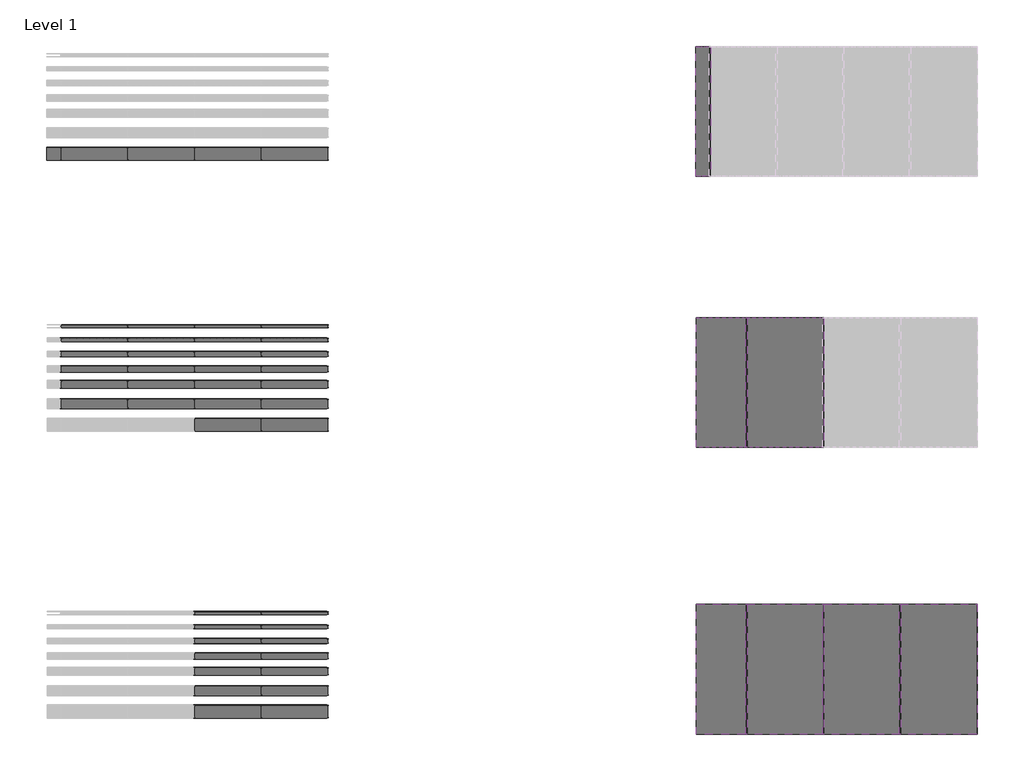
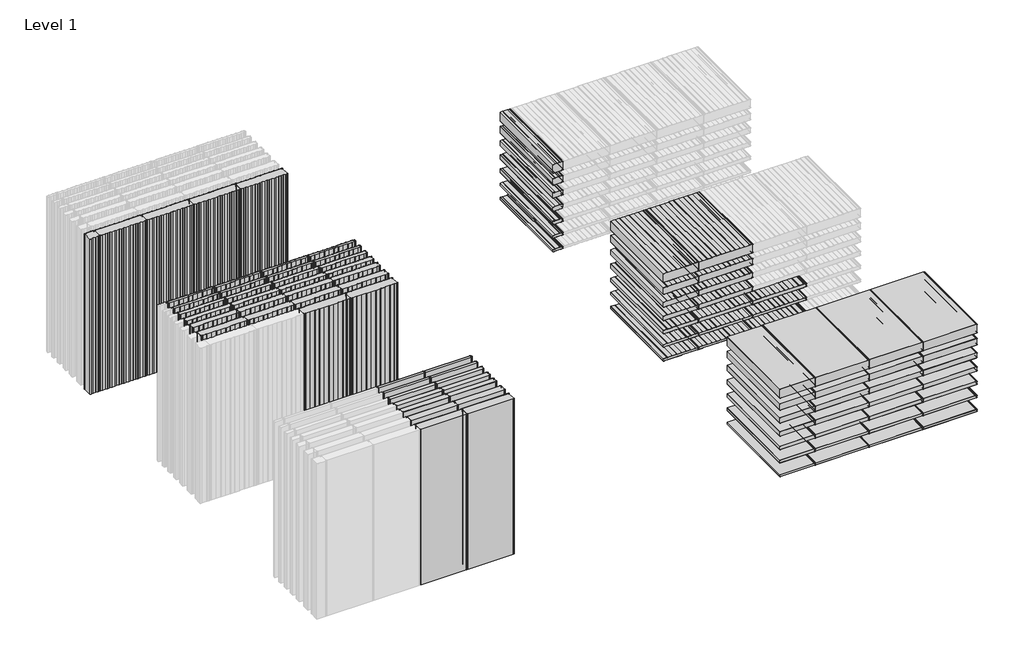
# One storey, part 3 of 4: 97 plates.
"""IFC4 building model written with IfcOpenShell, lengths in millimetres."""

from ifc_helpers import new_model, si_unit, origin, place, context, project, spatial, transform, mapped, element, save
from components import plate_c0fbc9e0, plate_24b0a13b, plate_d84f3b6b, plate_1f1996e2, plate_37213962, plate_cd397411, plate_82cb0394, plate_46b46948, plate_8fb5820e, plate_215b7ad8, plate_cca0c929, plate_ab274a87, plate_490ffd24, plate_86621088, plate_fcd02327, plate_9c3616a6, plate_b6f5b8fb, plate_d67f2b87, plate_3ec6e447, plate_b6d19df9, plate_b77677c2, plate_02edb116, plate_71c8e410, plate_208f2f02, plate_dd2a4387, plate_1fcd82a8, plate_863052c6, plate_c1a73980, plate_c8ef7cc6, plate_5d0e5f40, plate_37a7e260, plate_d39909f0, plate_9a600a1f, plate_23aabe01, plate_1fa75648, plate_c51ca6de, plate_85a3d73c, pm1_curtain_panel_perfil_liso_4c73c2bf, pm1_curtain_panel_perfil_liso_43c2f4df, pm1_curtain_panel_perfil_liso_60ec96a5, pm1_curtain_panel_perfil_liso_449bc577, pm1_curtain_panel_perfil_liso_286b1131, pm1_curtain_panel_perfil_liso_61f180d3, pm1_curtain_panel_perfil_liso_b2dca893, pm1_curtain_panel_perfil_liso_1d2014c8, pm1_curtain_panel_perfil_liso_ca693aed, pm1_curtain_panel_perfil_liso_87bdf2c1, pm1_curtain_panel_perfil_liso_b736cf1f, pm1_curtain_panel_perfil_liso_28417d67, pm1_curtain_panel_perfil_liso_6e2cb82f, pm1_curtain_panel_perfil_liso_e4c4468b, pmh_curtain_panel_perfil_liso_bc538edd, pmh_curtain_panel_perfil_liso_eaf717ca, pmh_curtain_panel_perfil_liso_2aa518ef, pmh_curtain_panel_perfil_liso_a8378464, pmh_curtain_panel_perfil_liso_d1ff0061, pmh_curtain_panel_perfil_liso_b9f61fe7, pmh_curtain_panel_perfil_liso_7e397283

model = new_model("IFC4")

# Units and contexts
model_context = context("Model", 3, world=origin())
ifc_project = project(units=[si_unit("LENGTHUNIT", "METRE", prefix="MILLI")], contexts=[model_context])

# Site, building, storey
site = spatial("IfcSite", under=ifc_project)
building = spatial("IfcBuilding", under=site)
storey = spatial("IfcBuildingStorey", under=building, Name="Level 1", Elevation=0.0)

# Plates
placement = place(None, origin())
plate_shape = plate_c0fbc9e0(model_context)
plate_2_shape = plate_24b0a13b(model_context)
element("IfcPlate", 1, ObjectType="PM1_Curtain-Panel_Perfil-Frigorífico : ACH_PM1_Panel-Acústico-Sectorización_50M", at=placement, inside=storey, context=model_context, shape_type="MappedRepresentation", body=[
    mapped(plate_shape, transform((9857.4664378, -4719.7144508, 0.0), x_axis=(-1.0, 0.0, 0.0), y_axis=(0.0, 0.0, 1.0), z_axis=(0.0, 1.0, 0.0))),
    mapped(plate_2_shape, transform((9857.4664378, -4719.7144508, 0.0), x_axis=(-1.0, 0.0, 0.0), y_axis=(0.0, 0.0, 1.0), z_axis=(0.0, 1.0, 0.0))),
])
element("IfcPlate", 2, ObjectType="PM1_Curtain-Panel_Perfil-Frigorífico : ACH_PM1_Panel-Acústico-Sectorización_50M", at=placement, inside=storey, context=model_context, shape_type="MappedRepresentation", body=[
    mapped(plate_shape, transform((8707.4664378, -4719.7144508, 0.0), x_axis=(-1.0, 0.0, 0.0), y_axis=(0.0, 0.0, 1.0), z_axis=(0.0, 1.0, 0.0))),
    mapped(plate_2_shape, transform((8707.4664378, -4719.7144508, 0.0), x_axis=(-1.0, 0.0, 0.0), y_axis=(0.0, 0.0, 1.0), z_axis=(0.0, 1.0, 0.0))),
])
plate_3_shape = plate_d84f3b6b(model_context)
element("IfcPlate", 3, ObjectType="PM1_Curtain-Panel_Perfil-Frigorífico : ACH_PM1_Panel-Acústico-Sectorización_50M", at=placement, inside=storey, context=model_context, shape_type="MappedRepresentation", body=[
    mapped(plate_3_shape, transform((7757.4544639, -4719.7144508, 0.0), x_axis=(-1.0, 0.0, 0.0), y_axis=(0.0, 0.0, 1.0), z_axis=(0.0, 1.0, 0.0))),
])
plate_4_shape = plate_1f1996e2(model_context)
plate_5_shape = plate_37213962(model_context)
element("IfcPlate", 4, ObjectType="PM1_Curtain-Panel_Perfil-Frigorífico : ACH_PM1_Panel-Acústico-Sectorización_60M", at=placement, inside=storey, context=model_context, shape_type="MappedRepresentation", body=[
    mapped(plate_4_shape, transform((9857.4664378, -4719.7144508, 320.0), x_axis=(-1.0, 0.0, 0.0), y_axis=(0.0, 0.0, 1.0), z_axis=(0.0, 1.0, 0.0))),
    mapped(plate_5_shape, transform((9857.4664378, -4719.7144508, 320.0), x_axis=(-1.0, 0.0, 0.0), y_axis=(0.0, 0.0, 1.0), z_axis=(0.0, 1.0, 0.0))),
])
element("IfcPlate", 5, ObjectType="PM1_Curtain-Panel_Perfil-Frigorífico : ACH_PM1_Panel-Acústico-Sectorización_60M", at=placement, inside=storey, context=model_context, shape_type="MappedRepresentation", body=[
    mapped(plate_4_shape, transform((8707.4664378, -4719.7144508, 320.0), x_axis=(-1.0, 0.0, 0.0), y_axis=(0.0, 0.0, 1.0), z_axis=(0.0, 1.0, 0.0))),
    mapped(plate_5_shape, transform((8707.4664378, -4719.7144508, 320.0), x_axis=(-1.0, 0.0, 0.0), y_axis=(0.0, 0.0, 1.0), z_axis=(0.0, 1.0, 0.0))),
])
plate_6_shape = plate_cd397411(model_context)
element("IfcPlate", 6, ObjectType="PM1_Curtain-Panel_Perfil-Frigorífico : ACH_PM1_Panel-Acústico-Sectorización_60M", at=placement, inside=storey, context=model_context, shape_type="MappedRepresentation", body=[
    mapped(plate_6_shape, transform((7757.4544639, -4719.7144508, 320.0), x_axis=(-1.0, 0.0, 0.0), y_axis=(0.0, 0.0, 1.0), z_axis=(0.0, 1.0, 0.0))),
])
plate_7_shape = plate_82cb0394(model_context)
plate_8_shape = plate_46b46948(model_context)
element("IfcPlate", 7, ObjectType="PM1_Curtain-Panel_Perfil-Frigorífico : ACH_PM1_Panel-Acústico-Sectorización_80M", at=placement, inside=storey, context=model_context, shape_type="MappedRepresentation", body=[
    mapped(plate_7_shape, transform((9857.4664378, -4719.7144508, 640.0), x_axis=(-1.0, 0.0, 0.0), y_axis=(0.0, 0.0, 1.0), z_axis=(0.0, 1.0, 0.0))),
    mapped(plate_8_shape, transform((9857.4664378, -4719.7144508, 640.0), x_axis=(-1.0, 0.0, 0.0), y_axis=(0.0, 0.0, 1.0), z_axis=(0.0, 1.0, 0.0))),
])
element("IfcPlate", 8, ObjectType="PM1_Curtain-Panel_Perfil-Frigorífico : ACH_PM1_Panel-Acústico-Sectorización_80M", at=placement, inside=storey, context=model_context, shape_type="MappedRepresentation", body=[
    mapped(plate_7_shape, transform((8707.4664378, -4719.7144508, 640.0), x_axis=(-1.0, 0.0, 0.0), y_axis=(0.0, 0.0, 1.0), z_axis=(0.0, 1.0, 0.0))),
    mapped(plate_8_shape, transform((8707.4664378, -4719.7144508, 640.0), x_axis=(-1.0, 0.0, 0.0), y_axis=(0.0, 0.0, 1.0), z_axis=(0.0, 1.0, 0.0))),
])
plate_9_shape = plate_8fb5820e(model_context)
element("IfcPlate", 9, ObjectType="PM1_Curtain-Panel_Perfil-Frigorífico : ACH_PM1_Panel-Acústico-Sectorización_80M", at=placement, inside=storey, context=model_context, shape_type="MappedRepresentation", body=[
    mapped(plate_9_shape, transform((7757.4544639, -4719.7144508, 640.0), x_axis=(-1.0, 0.0, 0.0), y_axis=(0.0, 0.0, 1.0), z_axis=(0.0, 1.0, 0.0))),
])
plate_10_shape = plate_215b7ad8(model_context)
plate_11_shape = plate_cca0c929(model_context)
element("IfcPlate", 10, ObjectType="PM1_Curtain-Panel_Perfil-Frigorífico : ACH_PM1_Panel-Acústico-Sectorización_100M", at=placement, inside=storey, context=model_context, shape_type="MappedRepresentation", body=[
    mapped(plate_10_shape, transform((8707.4664378, -4719.7144508, 960.0), x_axis=(-1.0, 0.0, 0.0), y_axis=(0.0, 0.0, 1.0), z_axis=(0.0, 1.0, 0.0))),
    mapped(plate_11_shape, transform((8707.4664378, -4719.7144508, 960.0), x_axis=(-1.0, 0.0, 0.0), y_axis=(0.0, 0.0, 1.0), z_axis=(0.0, 1.0, 0.0))),
])
plate_12_shape = plate_ab274a87(model_context)
element("IfcPlate", 11, ObjectType="PM1_Curtain-Panel_Perfil-Frigorífico : ACH_PM1_Panel-Acústico-Sectorización_100M", at=placement, inside=storey, context=model_context, shape_type="MappedRepresentation", body=[
    mapped(plate_12_shape, transform((7757.4544639, -4719.7144508, 960.0), x_axis=(-1.0, 0.0, 0.0), y_axis=(0.0, 0.0, 1.0), z_axis=(0.0, 1.0, 0.0))),
])
plate_13_shape = plate_490ffd24(model_context)
plate_14_shape = plate_86621088(model_context)
element("IfcPlate", 12, ObjectType="PM1_Curtain-Panel_Perfil-Frigorífico : ACH_PM1_Panel-Acústico-Sectorización_120M", at=placement, inside=storey, context=model_context, shape_type="MappedRepresentation", body=[
    mapped(plate_13_shape, transform((8707.4664378, -4719.7144508, 1280.0), x_axis=(-1.0, 0.0, 0.0), y_axis=(0.0, 0.0, 1.0), z_axis=(0.0, 1.0, 0.0))),
    mapped(plate_14_shape, transform((8707.4664378, -4719.7144508, 1280.0), x_axis=(-1.0, 0.0, 0.0), y_axis=(0.0, 0.0, 1.0), z_axis=(0.0, 1.0, 0.0))),
])
plate_15_shape = plate_fcd02327(model_context)
element("IfcPlate", 13, ObjectType="PM1_Curtain-Panel_Perfil-Frigorífico : ACH_PM1_Panel-Acústico-Sectorización_120M", at=placement, inside=storey, context=model_context, shape_type="MappedRepresentation", body=[
    mapped(plate_15_shape, transform((7757.4544639, -4719.7144508, 1280.0), x_axis=(-1.0, 0.0, 0.0), y_axis=(0.0, 0.0, 1.0), z_axis=(0.0, 1.0, 0.0))),
])
plate_16_shape = plate_9c3616a6(model_context)
plate_17_shape = plate_b6f5b8fb(model_context)
element("IfcPlate", 14, ObjectType="PM1_Curtain-Panel_Perfil-Frigorífico : ACH_PM1_Panel-Acústico-Sectorización_150M", at=placement, inside=storey, context=model_context, shape_type="MappedRepresentation", body=[
    mapped(plate_16_shape, transform((8707.4664378, -4719.7144508, 1600.0), x_axis=(-1.0, 0.0, 0.0), y_axis=(0.0, 0.0, 1.0), z_axis=(0.0, 1.0, 0.0))),
    mapped(plate_17_shape, transform((8707.4664378, -4719.7144508, 1600.0), x_axis=(-1.0, 0.0, 0.0), y_axis=(0.0, 0.0, 1.0), z_axis=(0.0, 1.0, 0.0))),
])
plate_18_shape = plate_d67f2b87(model_context)
element("IfcPlate", 15, ObjectType="PM1_Curtain-Panel_Perfil-Frigorífico : ACH_PM1_Panel-Acústico-Sectorización_150M", at=placement, inside=storey, context=model_context, shape_type="MappedRepresentation", body=[
    mapped(plate_18_shape, transform((7757.4544639, -4719.7144508, 1600.0), x_axis=(-1.0, 0.0, 0.0), y_axis=(0.0, 0.0, 1.0), z_axis=(0.0, 1.0, 0.0))),
])
plate_19_shape = plate_3ec6e447(model_context)
plate_20_shape = plate_b6d19df9(model_context)
element("IfcPlate", 16, ObjectType="PM1_Curtain-Panel_Perfil-Frigorífico : ACH_PM1_Panel-Acústico-Sectorización_200M", at=placement, inside=storey, context=model_context, shape_type="MappedRepresentation", body=[
    mapped(plate_19_shape, transform((8707.4664378, -4719.7144508, 1920.0), x_axis=(-1.0, 0.0, 0.0), y_axis=(0.0, 0.0, 1.0), z_axis=(0.0, 1.0, 0.0))),
    mapped(plate_20_shape, transform((8707.4664378, -4719.7144508, 1920.0), x_axis=(-1.0, 0.0, 0.0), y_axis=(0.0, 0.0, 1.0), z_axis=(0.0, 1.0, 0.0))),
])
plate_21_shape = plate_b77677c2(model_context)
element("IfcPlate", 17, ObjectType="PM1_Curtain-Panel_Perfil-Frigorífico : ACH_PM1_Panel-Acústico-Sectorización_200M", at=placement, inside=storey, context=model_context, shape_type="MappedRepresentation", body=[
    mapped(plate_21_shape, transform((7757.4544639, -4719.7144508, 1920.0), x_axis=(-1.0, 0.0, 0.0), y_axis=(0.0, 0.0, 1.0), z_axis=(0.0, 1.0, 0.0))),
])
plate_22_shape = plate_02edb116(model_context)
element("IfcPlate", 18, ObjectType="PMH_Curtain-Panel_Perfil-Estándar : ACH_PMH_Panel-Acústico-Sectorización_200M", at=placement, inside=storey, context=model_context, shape_type="MappedRepresentation", body=[
    mapped(plate_22_shape, transform((1353.9432954, -219.6173968, 0.0), x_axis=(-1.0, 0.0, 0.0), y_axis=(0.0, -1.0, 0.0), z_axis=(0.0, 0.0, 1.0))),
])
element("IfcPlate", 19, ObjectType="PMH_Curtain-Panel_Perfil-Estándar : ACH_PMH_Panel-Acústico-Sectorización_200M", at=placement, inside=storey, context=model_context, shape_type="MappedRepresentation", body=[
    mapped(plate_22_shape, transform((-646.0567046, -219.6173968, 0.0), x_axis=(-1.0, 0.0, 0.0), y_axis=(0.0, -1.0, 0.0), z_axis=(0.0, 0.0, 1.0))),
])
element("IfcPlate", 20, ObjectType="PMH_Curtain-Panel_Perfil-Estándar : ACH_PMH_Panel-Acústico-Sectorización_200M", at=placement, inside=storey, context=model_context, shape_type="MappedRepresentation", body=[
    mapped(plate_22_shape, transform((-1646.0567046, -219.6173968, 0.0), x_axis=(-1.0, 0.0, 0.0), y_axis=(0.0, -1.0, 0.0), z_axis=(0.0, 0.0, 1.0))),
])
element("IfcPlate", 21, ObjectType="PMH_Curtain-Panel_Perfil-Estándar : ACH_PMH_Panel-Acústico-Sectorización_200M", at=placement, inside=storey, context=model_context, shape_type="MappedRepresentation", body=[
    mapped(plate_22_shape, transform((353.9432954, -219.6173968, 0.0), x_axis=(-1.0, 0.0, 0.0), y_axis=(0.0, -1.0, 0.0), z_axis=(0.0, 0.0, 1.0))),
])
plate_23_shape = plate_71c8e410(model_context)
element("IfcPlate", 22, ObjectType="PMH_Curtain-Panel_Perfil-Estándar : ACH_PMH_Panel-Acústico-Sectorización_200M", at=placement, inside=storey, context=model_context, shape_type="MappedRepresentation", body=[
    mapped(plate_23_shape, transform((-2246.0567046, -219.6173968, 0.0), x_axis=(-1.0, 0.0, 0.0), y_axis=(0.0, -1.0, 0.0), z_axis=(0.0, 0.0, 1.0))),
])
plate_24_shape = plate_208f2f02(model_context)
element("IfcPlate", 23, ObjectType="PMH_Curtain-Panel_Perfil-Estándar : ACH_PMH_Panel-Acústico-Sectorización_200M", at=placement, inside=storey, context=model_context, shape_type="MappedRepresentation", body=[
    mapped(plate_24_shape, transform((7482.4544639, -659.2186597, 1920.0), x_axis=(-1.0, 0.0, 0.0), y_axis=(0.0, 0.0, 1.0), z_axis=(0.0, 1.0, 0.0))),
])
plate_25_shape = plate_dd2a4387(model_context)
element("IfcPlate", 24, ObjectType="PMH_Curtain-Panel_Perfil-Estándar : ACH_PMH_Panel-Acústico-Sectorización_150M", at=placement, inside=storey, context=model_context, shape_type="MappedRepresentation", body=[
    mapped(plate_25_shape, transform((7482.4544639, -659.2186597, 1600.0), x_axis=(-1.0, 0.0, 0.0), y_axis=(0.0, 0.0, 1.0), z_axis=(0.0, 1.0, 0.0))),
])
plate_26_shape = plate_1fcd82a8(model_context)
element("IfcPlate", 25, ObjectType="PMH_Curtain-Panel_Perfil-Estándar : ACH_PMH_Panel-Acústico-Sectorización_120M", at=placement, inside=storey, context=model_context, shape_type="MappedRepresentation", body=[
    mapped(plate_26_shape, transform((7482.4544639, -659.2186597, 1280.0), x_axis=(-1.0, 0.0, 0.0), y_axis=(0.0, 0.0, 1.0), z_axis=(0.0, 1.0, 0.0))),
])
plate_27_shape = plate_863052c6(model_context)
element("IfcPlate", 26, ObjectType="PMH_Curtain-Panel_Perfil-Estándar : ACH_PMH_Panel-Acústico-Sectorización_100M", at=placement, inside=storey, context=model_context, shape_type="MappedRepresentation", body=[
    mapped(plate_27_shape, transform((7482.4544639, -659.2186597, 960.0), x_axis=(-1.0, 0.0, 0.0), y_axis=(0.0, 0.0, 1.0), z_axis=(0.0, 1.0, 0.0))),
])
plate_28_shape = plate_c1a73980(model_context)
element("IfcPlate", 27, ObjectType="PMH_Curtain-Panel_Perfil-Estándar : ACH_PMH_Panel-Acústico-Sectorización_80M", at=placement, inside=storey, context=model_context, shape_type="MappedRepresentation", body=[
    mapped(plate_28_shape, transform((7482.4544639, -659.2186597, 640.0), x_axis=(-1.0, 0.0, 0.0), y_axis=(0.0, 0.0, 1.0), z_axis=(0.0, 1.0, 0.0))),
])
plate_29_shape = plate_c8ef7cc6(model_context)
element("IfcPlate", 28, ObjectType="PMH_Curtain-Panel_Perfil-Estándar : ACH_PMH_Panel-Acústico-Sectorización_60M", at=placement, inside=storey, context=model_context, shape_type="MappedRepresentation", body=[
    mapped(plate_29_shape, transform((7482.4544639, -659.2186597, 320.0), x_axis=(-1.0, 0.0, 0.0), y_axis=(0.0, 0.0, 1.0), z_axis=(0.0, 1.0, 0.0))),
])
plate_30_shape = plate_5d0e5f40(model_context)
element("IfcPlate", 29, ObjectType="PMH_Curtain-Panel_Perfil-Estándar : ACH_PMH_Panel-Acústico-Sectorización_50M", at=placement, inside=storey, context=model_context, shape_type="MappedRepresentation", body=[
    mapped(plate_30_shape, transform((7482.4544639, -659.2186597, 0.0), x_axis=(-1.0, 0.0, 0.0), y_axis=(0.0, 0.0, 1.0), z_axis=(0.0, 1.0, 0.0))),
])
plate_31_shape = plate_37a7e260(model_context)
element("IfcPlate", 30, ObjectType="PMH_Curtain-Panel_Perfil-Frigorífico : ACH_PMH_Panel-Acústico-Sectorización_60M", at=placement, inside=storey, context=model_context, shape_type="MappedRepresentation", body=[
    mapped(plate_31_shape, transform((1353.9432954, -3079.3131879, 0.0), x_axis=(-1.0, 0.0, 0.0), y_axis=(0.0, -1.0, 0.0), z_axis=(0.0, 0.0, 1.0))),
])
element("IfcPlate", 31, ObjectType="PMH_Curtain-Panel_Perfil-Frigorífico : ACH_PMH_Panel-Acústico-Sectorización_60M", at=placement, inside=storey, context=model_context, shape_type="MappedRepresentation", body=[
    mapped(plate_31_shape, transform((-646.0567046, -3079.3131879, 0.0), x_axis=(-1.0, 0.0, 0.0), y_axis=(0.0, -1.0, 0.0), z_axis=(0.0, 0.0, 1.0))),
])
element("IfcPlate", 32, ObjectType="PMH_Curtain-Panel_Perfil-Frigorífico : ACH_PMH_Panel-Acústico-Sectorización_60M", at=placement, inside=storey, context=model_context, shape_type="MappedRepresentation", body=[
    mapped(plate_31_shape, transform((-1646.0567046, -3079.3131879, 0.0), x_axis=(-1.0, 0.0, 0.0), y_axis=(0.0, -1.0, 0.0), z_axis=(0.0, 0.0, 1.0))),
])
element("IfcPlate", 33, ObjectType="PMH_Curtain-Panel_Perfil-Frigorífico : ACH_PMH_Panel-Acústico-Sectorización_60M", at=placement, inside=storey, context=model_context, shape_type="MappedRepresentation", body=[
    mapped(plate_31_shape, transform((353.9432954, -3079.3131879, 0.0), x_axis=(-1.0, 0.0, 0.0), y_axis=(0.0, -1.0, 0.0), z_axis=(0.0, 0.0, 1.0))),
])
plate_32_shape = plate_d39909f0(model_context)
element("IfcPlate", 34, ObjectType="PMH_Curtain-Panel_Perfil-Frigorífico : ACH_PMH_Panel-Acústico-Sectorización_80M", at=placement, inside=storey, context=model_context, shape_type="MappedRepresentation", body=[
    mapped(plate_32_shape, transform((1353.9432954, -3279.3131879, 0.0), x_axis=(-1.0, 0.0, 0.0), y_axis=(0.0, -1.0, 0.0), z_axis=(0.0, 0.0, 1.0))),
])
element("IfcPlate", 35, ObjectType="PMH_Curtain-Panel_Perfil-Frigorífico : ACH_PMH_Panel-Acústico-Sectorización_80M", at=placement, inside=storey, context=model_context, shape_type="MappedRepresentation", body=[
    mapped(plate_32_shape, transform((-646.0567046, -3279.3131879, 0.0), x_axis=(-1.0, 0.0, 0.0), y_axis=(0.0, -1.0, 0.0), z_axis=(0.0, 0.0, 1.0))),
])
element("IfcPlate", 36, ObjectType="PMH_Curtain-Panel_Perfil-Frigorífico : ACH_PMH_Panel-Acústico-Sectorización_80M", at=placement, inside=storey, context=model_context, shape_type="MappedRepresentation", body=[
    mapped(plate_32_shape, transform((-1646.0567046, -3279.3131879, 0.0), x_axis=(-1.0, 0.0, 0.0), y_axis=(0.0, -1.0, 0.0), z_axis=(0.0, 0.0, 1.0))),
])
element("IfcPlate", 37, ObjectType="PMH_Curtain-Panel_Perfil-Frigorífico : ACH_PMH_Panel-Acústico-Sectorización_80M", at=placement, inside=storey, context=model_context, shape_type="MappedRepresentation", body=[
    mapped(plate_32_shape, transform((353.9432954, -3279.3131879, 0.0), x_axis=(-1.0, 0.0, 0.0), y_axis=(0.0, -1.0, 0.0), z_axis=(0.0, 0.0, 1.0))),
])
plate_33_shape = plate_9a600a1f(model_context)
element("IfcPlate", 38, ObjectType="PMH_Curtain-Panel_Perfil-Frigorífico : ACH_PMH_Panel-Acústico-Sectorización_50M", at=placement, inside=storey, context=model_context, shape_type="MappedRepresentation", body=[
    mapped(plate_33_shape, transform((1353.9432954, -2879.3131879, 0.0), x_axis=(-1.0, 0.0, 0.0), y_axis=(0.0, -1.0, 0.0), z_axis=(0.0, 0.0, 1.0))),
])
element("IfcPlate", 39, ObjectType="PMH_Curtain-Panel_Perfil-Frigorífico : ACH_PMH_Panel-Acústico-Sectorización_50M", at=placement, inside=storey, context=model_context, shape_type="MappedRepresentation", body=[
    mapped(plate_33_shape, transform((-646.0567046, -2879.3131879, 0.0), x_axis=(-1.0, 0.0, 0.0), y_axis=(0.0, -1.0, 0.0), z_axis=(0.0, 0.0, 1.0))),
])
element("IfcPlate", 40, ObjectType="PMH_Curtain-Panel_Perfil-Frigorífico : ACH_PMH_Panel-Acústico-Sectorización_50M", at=placement, inside=storey, context=model_context, shape_type="MappedRepresentation", body=[
    mapped(plate_33_shape, transform((-1646.0567046, -2879.3131879, 0.0), x_axis=(-1.0, 0.0, 0.0), y_axis=(0.0, -1.0, 0.0), z_axis=(0.0, 0.0, 1.0))),
])
element("IfcPlate", 41, ObjectType="PMH_Curtain-Panel_Perfil-Frigorífico : ACH_PMH_Panel-Acústico-Sectorización_50M", at=placement, inside=storey, context=model_context, shape_type="MappedRepresentation", body=[
    mapped(plate_33_shape, transform((353.9432954, -2879.3131879, 0.0), x_axis=(-1.0, 0.0, 0.0), y_axis=(0.0, -1.0, 0.0), z_axis=(0.0, 0.0, 1.0))),
])
plate_34_shape = plate_23aabe01(model_context)
element("IfcPlate", 42, ObjectType="PMH_Curtain-Panel_Perfil-Frigorífico : ACH_PMH_Panel-Acústico-Sectorización_100M", at=placement, inside=storey, context=model_context, shape_type="MappedRepresentation", body=[
    mapped(plate_34_shape, transform((1353.9432954, -3495.1131879, 0.0), x_axis=(-1.0, 0.0, 0.0), y_axis=(0.0, -1.0, 0.0), z_axis=(0.0, 0.0, 1.0))),
])
element("IfcPlate", 43, ObjectType="PMH_Curtain-Panel_Perfil-Frigorífico : ACH_PMH_Panel-Acústico-Sectorización_100M", at=placement, inside=storey, context=model_context, shape_type="MappedRepresentation", body=[
    mapped(plate_34_shape, transform((-646.0567046, -3495.1131879, 0.0), x_axis=(-1.0, 0.0, 0.0), y_axis=(0.0, -1.0, 0.0), z_axis=(0.0, 0.0, 1.0))),
])
element("IfcPlate", 44, ObjectType="PMH_Curtain-Panel_Perfil-Frigorífico : ACH_PMH_Panel-Acústico-Sectorización_100M", at=placement, inside=storey, context=model_context, shape_type="MappedRepresentation", body=[
    mapped(plate_34_shape, transform((-1646.0567046, -3495.1131879, 0.0), x_axis=(-1.0, 0.0, 0.0), y_axis=(0.0, -1.0, 0.0), z_axis=(0.0, 0.0, 1.0))),
])
element("IfcPlate", 45, ObjectType="PMH_Curtain-Panel_Perfil-Frigorífico : ACH_PMH_Panel-Acústico-Sectorización_100M", at=placement, inside=storey, context=model_context, shape_type="MappedRepresentation", body=[
    mapped(plate_34_shape, transform((353.9432954, -3495.1131879, 0.0), x_axis=(-1.0, 0.0, 0.0), y_axis=(0.0, -1.0, 0.0), z_axis=(0.0, 0.0, 1.0))),
])
plate_35_shape = plate_1fa75648(model_context)
element("IfcPlate", 46, ObjectType="PMH_Curtain-Panel_Perfil-Frigorífico : ACH_PMH_Panel-Acústico-Sectorización_120M", at=placement, inside=storey, context=model_context, shape_type="MappedRepresentation", body=[
    mapped(plate_35_shape, transform((1353.9432954, -3715.1131879, 0.0), x_axis=(-1.0, 0.0, 0.0), y_axis=(0.0, -1.0, 0.0), z_axis=(0.0, 0.0, 1.0))),
])
element("IfcPlate", 47, ObjectType="PMH_Curtain-Panel_Perfil-Frigorífico : ACH_PMH_Panel-Acústico-Sectorización_120M", at=placement, inside=storey, context=model_context, shape_type="MappedRepresentation", body=[
    mapped(plate_35_shape, transform((-646.0567046, -3715.1131879, 0.0), x_axis=(-1.0, 0.0, 0.0), y_axis=(0.0, -1.0, 0.0), z_axis=(0.0, 0.0, 1.0))),
])
element("IfcPlate", 48, ObjectType="PMH_Curtain-Panel_Perfil-Frigorífico : ACH_PMH_Panel-Acústico-Sectorización_120M", at=placement, inside=storey, context=model_context, shape_type="MappedRepresentation", body=[
    mapped(plate_35_shape, transform((-1646.0567046, -3715.1131879, 0.0), x_axis=(-1.0, 0.0, 0.0), y_axis=(0.0, -1.0, 0.0), z_axis=(0.0, 0.0, 1.0))),
])
element("IfcPlate", 49, ObjectType="PMH_Curtain-Panel_Perfil-Frigorífico : ACH_PMH_Panel-Acústico-Sectorización_120M", at=placement, inside=storey, context=model_context, shape_type="MappedRepresentation", body=[
    mapped(plate_35_shape, transform((353.9432954, -3715.1131879, 0.0), x_axis=(-1.0, 0.0, 0.0), y_axis=(0.0, -1.0, 0.0), z_axis=(0.0, 0.0, 1.0))),
])
plate_36_shape = plate_c51ca6de(model_context)
element("IfcPlate", 50, ObjectType="PMH_Curtain-Panel_Perfil-Frigorífico : ACH_PMH_Panel-Acústico-Sectorización_150M", at=placement, inside=storey, context=model_context, shape_type="MappedRepresentation", body=[
    mapped(plate_36_shape, transform((1353.9432954, -3990.1131879, 0.0), x_axis=(-1.0, 0.0, 0.0), y_axis=(0.0, -1.0, 0.0), z_axis=(0.0, 0.0, 1.0))),
])
element("IfcPlate", 51, ObjectType="PMH_Curtain-Panel_Perfil-Frigorífico : ACH_PMH_Panel-Acústico-Sectorización_150M", at=placement, inside=storey, context=model_context, shape_type="MappedRepresentation", body=[
    mapped(plate_36_shape, transform((-646.0567046, -3990.1131879, 0.0), x_axis=(-1.0, 0.0, 0.0), y_axis=(0.0, -1.0, 0.0), z_axis=(0.0, 0.0, 1.0))),
])
element("IfcPlate", 52, ObjectType="PMH_Curtain-Panel_Perfil-Frigorífico : ACH_PMH_Panel-Acústico-Sectorización_150M", at=placement, inside=storey, context=model_context, shape_type="MappedRepresentation", body=[
    mapped(plate_36_shape, transform((-1646.0567046, -3990.1131879, 0.0), x_axis=(-1.0, 0.0, 0.0), y_axis=(0.0, -1.0, 0.0), z_axis=(0.0, 0.0, 1.0))),
])
element("IfcPlate", 53, ObjectType="PMH_Curtain-Panel_Perfil-Frigorífico : ACH_PMH_Panel-Acústico-Sectorización_150M", at=placement, inside=storey, context=model_context, shape_type="MappedRepresentation", body=[
    mapped(plate_36_shape, transform((353.9432954, -3990.1131879, 0.0), x_axis=(-1.0, 0.0, 0.0), y_axis=(0.0, -1.0, 0.0), z_axis=(0.0, 0.0, 1.0))),
])
plate_37_shape = plate_85a3d73c(model_context)
element("IfcPlate", 54, ObjectType="PMH_Curtain-Panel_Perfil-Frigorífico : ACH_PMH_Panel-Acústico-Sectorización_200M", at=placement, inside=storey, context=model_context, shape_type="MappedRepresentation", body=[
    mapped(plate_37_shape, transform((1353.9432954, -4280.1131879, 0.0), x_axis=(-1.0, 0.0, 0.0), y_axis=(0.0, -1.0, 0.0), z_axis=(0.0, 0.0, 1.0))),
])
element("IfcPlate", 55, ObjectType="PMH_Curtain-Panel_Perfil-Frigorífico : ACH_PMH_Panel-Acústico-Sectorización_200M", at=placement, inside=storey, context=model_context, shape_type="MappedRepresentation", body=[
    mapped(plate_37_shape, transform((353.9432954, -4280.1131879, 0.0), x_axis=(-1.0, 0.0, 0.0), y_axis=(0.0, -1.0, 0.0), z_axis=(0.0, 0.0, 1.0))),
])
pm1_curtain_panel_perfil_liso_shape = pm1_curtain_panel_perfil_liso_4c73c2bf(model_context)
element("IfcPlate", 56, ObjectType="PM1_Curtain-Panel_Perfil-Liso : ACH_PM1_Panel-Acústico-Sectorización_50M", at=placement, inside=storey, context=model_context, shape_type="MappedRepresentation", body=[
    mapped(pm1_curtain_panel_perfil_liso_shape, transform((11007.4664378, -9019.7144508, 0.0), x_axis=(-1.0, 0.0, 0.0), y_axis=(0.0, 0.0, 1.0), z_axis=(0.0, 1.0, 0.0))),
])
element("IfcPlate", 57, ObjectType="PM1_Curtain-Panel_Perfil-Liso : ACH_PM1_Panel-Acústico-Sectorización_50M", at=placement, inside=storey, context=model_context, shape_type="MappedRepresentation", body=[
    mapped(pm1_curtain_panel_perfil_liso_shape, transform((9857.4664378, -9019.7144508, 0.0), x_axis=(-1.0, 0.0, 0.0), y_axis=(0.0, 0.0, 1.0), z_axis=(0.0, 1.0, 0.0))),
])
element("IfcPlate", 58, ObjectType="PM1_Curtain-Panel_Perfil-Liso : ACH_PM1_Panel-Acústico-Sectorización_50M", at=placement, inside=storey, context=model_context, shape_type="MappedRepresentation", body=[
    mapped(pm1_curtain_panel_perfil_liso_shape, transform((8707.4664378, -9019.7144508, 0.0), x_axis=(-1.0, 0.0, 0.0), y_axis=(0.0, 0.0, 1.0), z_axis=(0.0, 1.0, 0.0))),
])
pm1_curtain_panel_perfil_liso_2_shape = pm1_curtain_panel_perfil_liso_43c2f4df(model_context)
element("IfcPlate", 59, ObjectType="PM1_Curtain-Panel_Perfil-Liso : ACH_PM1_Panel-Acústico-Sectorización_50M", at=placement, inside=storey, context=model_context, shape_type="MappedRepresentation", body=[
    mapped(pm1_curtain_panel_perfil_liso_2_shape, transform((7757.4544639, -9019.7144508, 0.0), x_axis=(-1.0, 0.0, 0.0), y_axis=(0.0, 0.0, 1.0), z_axis=(0.0, 1.0, 0.0))),
])
pm1_curtain_panel_perfil_liso_3_shape = pm1_curtain_panel_perfil_liso_60ec96a5(model_context)
element("IfcPlate", 60, ObjectType="PM1_Curtain-Panel_Perfil-Liso : ACH_PM1_Panel-Acústico-Sectorización_60M", at=placement, inside=storey, context=model_context, shape_type="MappedRepresentation", body=[
    mapped(pm1_curtain_panel_perfil_liso_3_shape, transform((11007.4664378, -9019.7144508, 320.0), x_axis=(-1.0, 0.0, 0.0), y_axis=(0.0, 0.0, 1.0), z_axis=(0.0, 1.0, 0.0))),
])
element("IfcPlate", 61, ObjectType="PM1_Curtain-Panel_Perfil-Liso : ACH_PM1_Panel-Acústico-Sectorización_60M", at=placement, inside=storey, context=model_context, shape_type="MappedRepresentation", body=[
    mapped(pm1_curtain_panel_perfil_liso_3_shape, transform((9857.4664378, -9019.7144508, 320.0), x_axis=(-1.0, 0.0, 0.0), y_axis=(0.0, 0.0, 1.0), z_axis=(0.0, 1.0, 0.0))),
])
element("IfcPlate", 62, ObjectType="PM1_Curtain-Panel_Perfil-Liso : ACH_PM1_Panel-Acústico-Sectorización_60M", at=placement, inside=storey, context=model_context, shape_type="MappedRepresentation", body=[
    mapped(pm1_curtain_panel_perfil_liso_3_shape, transform((8707.4664378, -9019.7144508, 320.0), x_axis=(-1.0, 0.0, 0.0), y_axis=(0.0, 0.0, 1.0), z_axis=(0.0, 1.0, 0.0))),
])
pm1_curtain_panel_perfil_liso_4_shape = pm1_curtain_panel_perfil_liso_449bc577(model_context)
element("IfcPlate", 63, ObjectType="PM1_Curtain-Panel_Perfil-Liso : ACH_PM1_Panel-Acústico-Sectorización_60M", at=placement, inside=storey, context=model_context, shape_type="MappedRepresentation", body=[
    mapped(pm1_curtain_panel_perfil_liso_4_shape, transform((7757.4544639, -9019.7144508, 320.0), x_axis=(-1.0, 0.0, 0.0), y_axis=(0.0, 0.0, 1.0), z_axis=(0.0, 1.0, 0.0))),
])
pm1_curtain_panel_perfil_liso_5_shape = pm1_curtain_panel_perfil_liso_286b1131(model_context)
element("IfcPlate", 64, ObjectType="PM1_Curtain-Panel_Perfil-Liso : ACH_PM1_Panel-Acústico-Sectorización_80M", at=placement, inside=storey, context=model_context, shape_type="MappedRepresentation", body=[
    mapped(pm1_curtain_panel_perfil_liso_5_shape, transform((11007.4664378, -9019.7144508, 640.0), x_axis=(-1.0, 0.0, 0.0), y_axis=(0.0, 0.0, 1.0), z_axis=(0.0, 1.0, 0.0))),
])
element("IfcPlate", 65, ObjectType="PM1_Curtain-Panel_Perfil-Liso : ACH_PM1_Panel-Acústico-Sectorización_80M", at=placement, inside=storey, context=model_context, shape_type="MappedRepresentation", body=[
    mapped(pm1_curtain_panel_perfil_liso_5_shape, transform((9857.4664378, -9019.7144508, 640.0), x_axis=(-1.0, 0.0, 0.0), y_axis=(0.0, 0.0, 1.0), z_axis=(0.0, 1.0, 0.0))),
])
element("IfcPlate", 66, ObjectType="PM1_Curtain-Panel_Perfil-Liso : ACH_PM1_Panel-Acústico-Sectorización_80M", at=placement, inside=storey, context=model_context, shape_type="MappedRepresentation", body=[
    mapped(pm1_curtain_panel_perfil_liso_5_shape, transform((8707.4664378, -9019.7144508, 640.0), x_axis=(-1.0, 0.0, 0.0), y_axis=(0.0, 0.0, 1.0), z_axis=(0.0, 1.0, 0.0))),
])
pm1_curtain_panel_perfil_liso_6_shape = pm1_curtain_panel_perfil_liso_61f180d3(model_context)
element("IfcPlate", 67, ObjectType="PM1_Curtain-Panel_Perfil-Liso : ACH_PM1_Panel-Acústico-Sectorización_80M", at=placement, inside=storey, context=model_context, shape_type="MappedRepresentation", body=[
    mapped(pm1_curtain_panel_perfil_liso_6_shape, transform((7757.4544639, -9019.7144508, 640.0), x_axis=(-1.0, 0.0, 0.0), y_axis=(0.0, 0.0, 1.0), z_axis=(0.0, 1.0, 0.0))),
])
pm1_curtain_panel_perfil_liso_7_shape = pm1_curtain_panel_perfil_liso_b2dca893(model_context)
element("IfcPlate", 68, ObjectType="PM1_Curtain-Panel_Perfil-Liso : ACH_PM1_Panel-Acústico-Sectorización_100M", at=placement, inside=storey, context=model_context, shape_type="MappedRepresentation", body=[
    mapped(pm1_curtain_panel_perfil_liso_7_shape, transform((11007.4664378, -9019.7144508, 960.0), x_axis=(-1.0, 0.0, 0.0), y_axis=(0.0, 0.0, 1.0), z_axis=(0.0, 1.0, 0.0))),
])
element("IfcPlate", 69, ObjectType="PM1_Curtain-Panel_Perfil-Liso : ACH_PM1_Panel-Acústico-Sectorización_100M", at=placement, inside=storey, context=model_context, shape_type="MappedRepresentation", body=[
    mapped(pm1_curtain_panel_perfil_liso_7_shape, transform((9857.4664378, -9019.7144508, 960.0), x_axis=(-1.0, 0.0, 0.0), y_axis=(0.0, 0.0, 1.0), z_axis=(0.0, 1.0, 0.0))),
])
element("IfcPlate", 70, ObjectType="PM1_Curtain-Panel_Perfil-Liso : ACH_PM1_Panel-Acústico-Sectorización_100M", at=placement, inside=storey, context=model_context, shape_type="MappedRepresentation", body=[
    mapped(pm1_curtain_panel_perfil_liso_7_shape, transform((8707.4664378, -9019.7144508, 960.0), x_axis=(-1.0, 0.0, 0.0), y_axis=(0.0, 0.0, 1.0), z_axis=(0.0, 1.0, 0.0))),
])
pm1_curtain_panel_perfil_liso_8_shape = pm1_curtain_panel_perfil_liso_1d2014c8(model_context)
element("IfcPlate", 71, ObjectType="PM1_Curtain-Panel_Perfil-Liso : ACH_PM1_Panel-Acústico-Sectorización_100M", at=placement, inside=storey, context=model_context, shape_type="MappedRepresentation", body=[
    mapped(pm1_curtain_panel_perfil_liso_8_shape, transform((7757.4544639, -9019.7144508, 960.0), x_axis=(-1.0, 0.0, 0.0), y_axis=(0.0, 0.0, 1.0), z_axis=(0.0, 1.0, 0.0))),
])
pm1_curtain_panel_perfil_liso_9_shape = pm1_curtain_panel_perfil_liso_ca693aed(model_context)
element("IfcPlate", 72, ObjectType="PM1_Curtain-Panel_Perfil-Liso : ACH_PM1_Panel-Acústico-Sectorización_120M", at=placement, inside=storey, context=model_context, shape_type="MappedRepresentation", body=[
    mapped(pm1_curtain_panel_perfil_liso_9_shape, transform((11007.4664378, -9019.7144508, 1280.0), x_axis=(-1.0, 0.0, 0.0), y_axis=(0.0, 0.0, 1.0), z_axis=(0.0, 1.0, 0.0))),
])
element("IfcPlate", 73, ObjectType="PM1_Curtain-Panel_Perfil-Liso : ACH_PM1_Panel-Acústico-Sectorización_120M", at=placement, inside=storey, context=model_context, shape_type="MappedRepresentation", body=[
    mapped(pm1_curtain_panel_perfil_liso_9_shape, transform((9857.4664378, -9019.7144508, 1280.0), x_axis=(-1.0, 0.0, 0.0), y_axis=(0.0, 0.0, 1.0), z_axis=(0.0, 1.0, 0.0))),
])
element("IfcPlate", 74, ObjectType="PM1_Curtain-Panel_Perfil-Liso : ACH_PM1_Panel-Acústico-Sectorización_120M", at=placement, inside=storey, context=model_context, shape_type="MappedRepresentation", body=[
    mapped(pm1_curtain_panel_perfil_liso_9_shape, transform((8707.4664378, -9019.7144508, 1280.0), x_axis=(-1.0, 0.0, 0.0), y_axis=(0.0, 0.0, 1.0), z_axis=(0.0, 1.0, 0.0))),
])
pm1_curtain_panel_perfil_liso_10_shape = pm1_curtain_panel_perfil_liso_87bdf2c1(model_context)
element("IfcPlate", 75, ObjectType="PM1_Curtain-Panel_Perfil-Liso : ACH_PM1_Panel-Acústico-Sectorización_120M", at=placement, inside=storey, context=model_context, shape_type="MappedRepresentation", body=[
    mapped(pm1_curtain_panel_perfil_liso_10_shape, transform((7757.4544639, -9019.7144508, 1280.0), x_axis=(-1.0, 0.0, 0.0), y_axis=(0.0, 0.0, 1.0), z_axis=(0.0, 1.0, 0.0))),
])
pm1_curtain_panel_perfil_liso_11_shape = pm1_curtain_panel_perfil_liso_b736cf1f(model_context)
element("IfcPlate", 76, ObjectType="PM1_Curtain-Panel_Perfil-Liso : ACH_PM1_Panel-Acústico-Sectorización_150M", at=placement, inside=storey, context=model_context, shape_type="MappedRepresentation", body=[
    mapped(pm1_curtain_panel_perfil_liso_11_shape, transform((11007.4664378, -9019.7144508, 1600.0), x_axis=(-1.0, 0.0, 0.0), y_axis=(0.0, 0.0, 1.0), z_axis=(0.0, 1.0, 0.0))),
])
element("IfcPlate", 77, ObjectType="PM1_Curtain-Panel_Perfil-Liso : ACH_PM1_Panel-Acústico-Sectorización_150M", at=placement, inside=storey, context=model_context, shape_type="MappedRepresentation", body=[
    mapped(pm1_curtain_panel_perfil_liso_11_shape, transform((9857.4664378, -9019.7144508, 1600.0), x_axis=(-1.0, 0.0, 0.0), y_axis=(0.0, 0.0, 1.0), z_axis=(0.0, 1.0, 0.0))),
])
element("IfcPlate", 78, ObjectType="PM1_Curtain-Panel_Perfil-Liso : ACH_PM1_Panel-Acústico-Sectorización_150M", at=placement, inside=storey, context=model_context, shape_type="MappedRepresentation", body=[
    mapped(pm1_curtain_panel_perfil_liso_11_shape, transform((8707.4664378, -9019.7144508, 1600.0), x_axis=(-1.0, 0.0, 0.0), y_axis=(0.0, 0.0, 1.0), z_axis=(0.0, 1.0, 0.0))),
])
pm1_curtain_panel_perfil_liso_12_shape = pm1_curtain_panel_perfil_liso_28417d67(model_context)
element("IfcPlate", 79, ObjectType="PM1_Curtain-Panel_Perfil-Liso : ACH_PM1_Panel-Acústico-Sectorización_150M", at=placement, inside=storey, context=model_context, shape_type="MappedRepresentation", body=[
    mapped(pm1_curtain_panel_perfil_liso_12_shape, transform((7757.4544639, -9019.7144508, 1600.0), x_axis=(-1.0, 0.0, 0.0), y_axis=(0.0, 0.0, 1.0), z_axis=(0.0, 1.0, 0.0))),
])
pm1_curtain_panel_perfil_liso_13_shape = pm1_curtain_panel_perfil_liso_6e2cb82f(model_context)
element("IfcPlate", 80, ObjectType="PM1_Curtain-Panel_Perfil-Liso : ACH_PM1_Panel-Acústico-Sectorización_200M", at=placement, inside=storey, context=model_context, shape_type="MappedRepresentation", body=[
    mapped(pm1_curtain_panel_perfil_liso_13_shape, transform((11007.4664378, -9019.7144508, 1920.0), x_axis=(-1.0, 0.0, 0.0), y_axis=(0.0, 0.0, 1.0), z_axis=(0.0, 1.0, 0.0))),
])
element("IfcPlate", 81, ObjectType="PM1_Curtain-Panel_Perfil-Liso : ACH_PM1_Panel-Acústico-Sectorización_200M", at=placement, inside=storey, context=model_context, shape_type="MappedRepresentation", body=[
    mapped(pm1_curtain_panel_perfil_liso_13_shape, transform((9857.4664378, -9019.7144508, 1920.0), x_axis=(-1.0, 0.0, 0.0), y_axis=(0.0, 0.0, 1.0), z_axis=(0.0, 1.0, 0.0))),
])
element("IfcPlate", 82, ObjectType="PM1_Curtain-Panel_Perfil-Liso : ACH_PM1_Panel-Acústico-Sectorización_200M", at=placement, inside=storey, context=model_context, shape_type="MappedRepresentation", body=[
    mapped(pm1_curtain_panel_perfil_liso_13_shape, transform((8707.4664378, -9019.7144508, 1920.0), x_axis=(-1.0, 0.0, 0.0), y_axis=(0.0, 0.0, 1.0), z_axis=(0.0, 1.0, 0.0))),
])
pm1_curtain_panel_perfil_liso_14_shape = pm1_curtain_panel_perfil_liso_e4c4468b(model_context)
element("IfcPlate", 83, ObjectType="PM1_Curtain-Panel_Perfil-Liso : ACH_PM1_Panel-Acústico-Sectorización_200M", at=placement, inside=storey, context=model_context, shape_type="MappedRepresentation", body=[
    mapped(pm1_curtain_panel_perfil_liso_14_shape, transform((7757.4544639, -9019.7144508, 1920.0), x_axis=(-1.0, 0.0, 0.0), y_axis=(0.0, 0.0, 1.0), z_axis=(0.0, 1.0, 0.0))),
])
pmh_curtain_panel_perfil_liso_shape = pmh_curtain_panel_perfil_liso_bc538edd(model_context)
element("IfcPlate", 84, ObjectType="PMH_Curtain-Panel_Perfil-Liso : ACH_PMH_Panel-Acústico-Sectorización_60M", at=placement, inside=storey, context=model_context, shape_type="MappedRepresentation", body=[
    mapped(pmh_curtain_panel_perfil_liso_shape, transform((1353.9432954, -7379.3131879, 0.0), x_axis=(-1.0, 0.0, 0.0), y_axis=(0.0, -1.0, 0.0), z_axis=(0.0, 0.0, 1.0))),
])
element("IfcPlate", 85, ObjectType="PMH_Curtain-Panel_Perfil-Liso : ACH_PMH_Panel-Acústico-Sectorización_60M", at=placement, inside=storey, context=model_context, shape_type="MappedRepresentation", body=[
    mapped(pmh_curtain_panel_perfil_liso_shape, transform((353.9432954, -7379.3131879, 0.0), x_axis=(-1.0, 0.0, 0.0), y_axis=(0.0, -1.0, 0.0), z_axis=(0.0, 0.0, 1.0))),
])
pmh_curtain_panel_perfil_liso_2_shape = pmh_curtain_panel_perfil_liso_eaf717ca(model_context)
element("IfcPlate", 86, ObjectType="PMH_Curtain-Panel_Perfil-Liso : ACH_PMH_Panel-Acústico-Sectorización_80M", at=placement, inside=storey, context=model_context, shape_type="MappedRepresentation", body=[
    mapped(pmh_curtain_panel_perfil_liso_2_shape, transform((1353.9432954, -7579.3131879, 0.0), x_axis=(-1.0, 0.0, 0.0), y_axis=(0.0, -1.0, 0.0), z_axis=(0.0, 0.0, 1.0))),
])
element("IfcPlate", 87, ObjectType="PMH_Curtain-Panel_Perfil-Liso : ACH_PMH_Panel-Acústico-Sectorización_80M", at=placement, inside=storey, context=model_context, shape_type="MappedRepresentation", body=[
    mapped(pmh_curtain_panel_perfil_liso_2_shape, transform((353.9432954, -7579.3131879, 0.0), x_axis=(-1.0, 0.0, 0.0), y_axis=(0.0, -1.0, 0.0), z_axis=(0.0, 0.0, 1.0))),
])
pmh_curtain_panel_perfil_liso_3_shape = pmh_curtain_panel_perfil_liso_2aa518ef(model_context)
element("IfcPlate", 88, ObjectType="PMH_Curtain-Panel_Perfil-Liso : ACH_PMH_Panel-Acústico-Sectorización_50M", at=placement, inside=storey, context=model_context, shape_type="MappedRepresentation", body=[
    mapped(pmh_curtain_panel_perfil_liso_3_shape, transform((1353.9432954, -7179.3131879, 0.0), x_axis=(-1.0, 0.0, 0.0), y_axis=(0.0, -1.0, 0.0), z_axis=(0.0, 0.0, 1.0))),
])
element("IfcPlate", 89, ObjectType="PMH_Curtain-Panel_Perfil-Liso : ACH_PMH_Panel-Acústico-Sectorización_50M", at=placement, inside=storey, context=model_context, shape_type="MappedRepresentation", body=[
    mapped(pmh_curtain_panel_perfil_liso_3_shape, transform((353.9432954, -7179.3131879, 0.0), x_axis=(-1.0, 0.0, 0.0), y_axis=(0.0, -1.0, 0.0), z_axis=(0.0, 0.0, 1.0))),
])
pmh_curtain_panel_perfil_liso_4_shape = pmh_curtain_panel_perfil_liso_a8378464(model_context)
element("IfcPlate", 90, ObjectType="PMH_Curtain-Panel_Perfil-Liso : ACH_PMH_Panel-Acústico-Sectorización_100M", at=placement, inside=storey, context=model_context, shape_type="MappedRepresentation", body=[
    mapped(pmh_curtain_panel_perfil_liso_4_shape, transform((1353.9432954, -7795.1131879, 0.0), x_axis=(-1.0, 0.0, 0.0), y_axis=(0.0, -1.0, 0.0), z_axis=(0.0, 0.0, 1.0))),
])
element("IfcPlate", 91, ObjectType="PMH_Curtain-Panel_Perfil-Liso : ACH_PMH_Panel-Acústico-Sectorización_100M", at=placement, inside=storey, context=model_context, shape_type="MappedRepresentation", body=[
    mapped(pmh_curtain_panel_perfil_liso_4_shape, transform((353.9432954, -7795.1131879, 0.0), x_axis=(-1.0, 0.0, 0.0), y_axis=(0.0, -1.0, 0.0), z_axis=(0.0, 0.0, 1.0))),
])
pmh_curtain_panel_perfil_liso_5_shape = pmh_curtain_panel_perfil_liso_d1ff0061(model_context)
element("IfcPlate", 92, ObjectType="PMH_Curtain-Panel_Perfil-Liso : ACH_PMH_Panel-Acústico-Sectorización_120M", at=placement, inside=storey, context=model_context, shape_type="MappedRepresentation", body=[
    mapped(pmh_curtain_panel_perfil_liso_5_shape, transform((1353.9432954, -8015.1131879, 0.0), x_axis=(-1.0, 0.0, 0.0), y_axis=(0.0, -1.0, 0.0), z_axis=(0.0, 0.0, 1.0))),
])
element("IfcPlate", 93, ObjectType="PMH_Curtain-Panel_Perfil-Liso : ACH_PMH_Panel-Acústico-Sectorización_120M", at=placement, inside=storey, context=model_context, shape_type="MappedRepresentation", body=[
    mapped(pmh_curtain_panel_perfil_liso_5_shape, transform((353.9432954, -8015.1131879, 0.0), x_axis=(-1.0, 0.0, 0.0), y_axis=(0.0, -1.0, 0.0), z_axis=(0.0, 0.0, 1.0))),
])
pmh_curtain_panel_perfil_liso_6_shape = pmh_curtain_panel_perfil_liso_b9f61fe7(model_context)
element("IfcPlate", 94, ObjectType="PMH_Curtain-Panel_Perfil-Liso : ACH_PMH_Panel-Acústico-Sectorización_150M", at=placement, inside=storey, context=model_context, shape_type="MappedRepresentation", body=[
    mapped(pmh_curtain_panel_perfil_liso_6_shape, transform((1353.9432954, -8290.1131879, 0.0), x_axis=(-1.0, 0.0, 0.0), y_axis=(0.0, -1.0, 0.0), z_axis=(0.0, 0.0, 1.0))),
])
element("IfcPlate", 95, ObjectType="PMH_Curtain-Panel_Perfil-Liso : ACH_PMH_Panel-Acústico-Sectorización_150M", at=placement, inside=storey, context=model_context, shape_type="MappedRepresentation", body=[
    mapped(pmh_curtain_panel_perfil_liso_6_shape, transform((353.9432954, -8290.1131879, 0.0), x_axis=(-1.0, 0.0, 0.0), y_axis=(0.0, -1.0, 0.0), z_axis=(0.0, 0.0, 1.0))),
])
pmh_curtain_panel_perfil_liso_7_shape = pmh_curtain_panel_perfil_liso_7e397283(model_context)
element("IfcPlate", 96, ObjectType="PMH_Curtain-Panel_Perfil-Liso : ACH_PMH_Panel-Acústico-Sectorización_200M", at=placement, inside=storey, context=model_context, shape_type="MappedRepresentation", body=[
    mapped(pmh_curtain_panel_perfil_liso_7_shape, transform((1353.9432954, -8580.1131879, 0.0), x_axis=(-1.0, 0.0, 0.0), y_axis=(0.0, -1.0, 0.0), z_axis=(0.0, 0.0, 1.0))),
])
element("IfcPlate", 97, ObjectType="PMH_Curtain-Panel_Perfil-Liso : ACH_PMH_Panel-Acústico-Sectorización_200M", at=placement, inside=storey, context=model_context, shape_type="MappedRepresentation", body=[
    mapped(pmh_curtain_panel_perfil_liso_7_shape, transform((353.9432954, -8580.1131879, 0.0), x_axis=(-1.0, 0.0, 0.0), y_axis=(0.0, -1.0, 0.0), z_axis=(0.0, 0.0, 1.0))),
])

save(model, "model.ifc")
